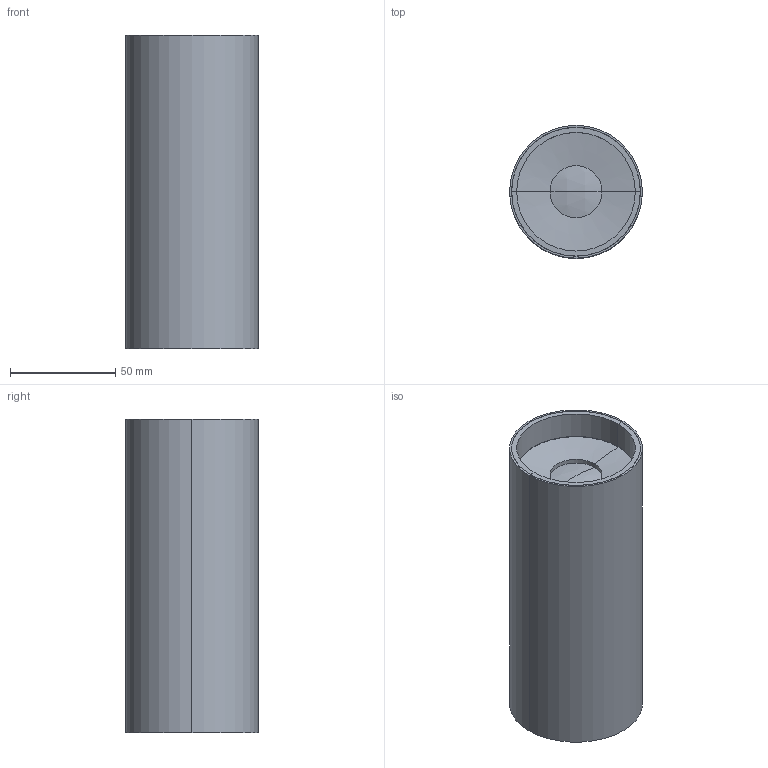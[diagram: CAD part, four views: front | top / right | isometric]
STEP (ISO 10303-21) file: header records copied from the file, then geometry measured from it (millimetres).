
FILE_DESCRIPTION(/* description */ (''),/* implementation_level */ '2;1');
FILE_NAME(/* name */ 'C:\Users\FrancoSartori\Documents\FARO\01_En Proceso\0000_2022\000_PRO\00_FOST\03_Publicación\FOST CEILING64.stp',/* time_stamp */ '2022-04-19T17:27:31+02:00',/* author */ ('FrancoSartori'),/* organization */ (''),/* preprocessor_version */ 'ST-DEVELOPER v19',/* originating_system */ 'AutoCAD Mechanical',/* authorisation */ '');
FILE_SCHEMA (('AUTOMOTIVE_DESIGN { 1 0 10303 214 3 1 1 }'));
Length unit declared in the file: millimetre
Products named in the file (2): Product; FOST CEILING 64_ - Lamp-706252-Export
Assembly tree (1 placements, depth 2):
  Product
    FOST CEILING 64_ - Lamp-706252-Export
Bounding box: 63 x 63 x 148.5 mm (x, y, z)
Volume: 114770.8 mm3; surface area: 111811.9 mm2
Topology: 19 solids, 19 shells, 206 faces, 469 edges, 297 vertices
Faces by surface type: plane 132, cylinder 64, cone 6, sphere 2, bspline 2
Entity records: 5873 total; most frequent: CARTESIAN_POINT 1055, DIRECTION 1018, ORIENTED_EDGE 934, EDGE_CURVE 467, AXIS2_PLACEMENT_3D 345, LINE 328, VECTOR 328, VERTEX_POINT 297
